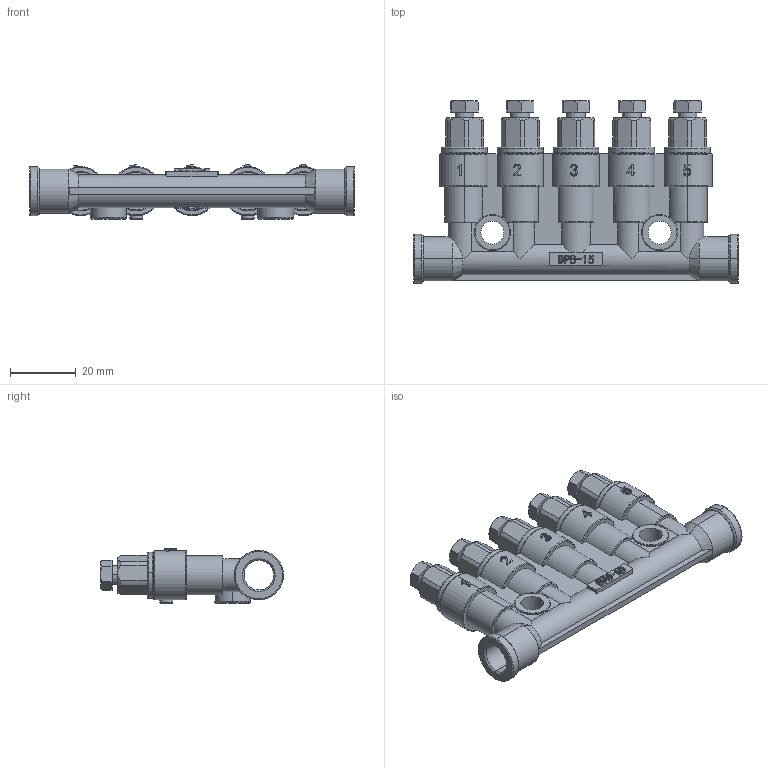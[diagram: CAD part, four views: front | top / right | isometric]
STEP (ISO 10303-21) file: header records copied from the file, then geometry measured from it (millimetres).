
FILE_DESCRIPTION (( 'STEP AP203' ), '1' );
FILE_NAME ('DPB-15.STEP', '2020-04-17T09:01:12', ( '个人用户' ), ( '微软中国' ), 'SwSTEP 2.0', 'SolidWorks 2018', '' );
FILE_SCHEMA (( 'CONFIG_CONTROL_DESIGN' ));
Length unit declared in the file: millimetre
Products named in the file (1): DPB-15
Bounding box: 99 x 55.72 x 16.5 mm (x, y, z)
Surface area: 15552.7 mm2 (no closed solid volume)
Topology: 0 solids, 16 shells, 582 faces, 1629 edges, 1075 vertices
Faces by surface type: plane 249, cylinder 150, torus 81, cone 59, bspline 43
Entity records: 23055 total; most frequent: CARTESIAN_POINT 8316, ORIENTED_EDGE 3095, DIRECTION 2976, EDGE_CURVE 1629, AXIS2_PLACEMENT_3D 1115, VERTEX_POINT 1075, LINE 746, VECTOR 746
